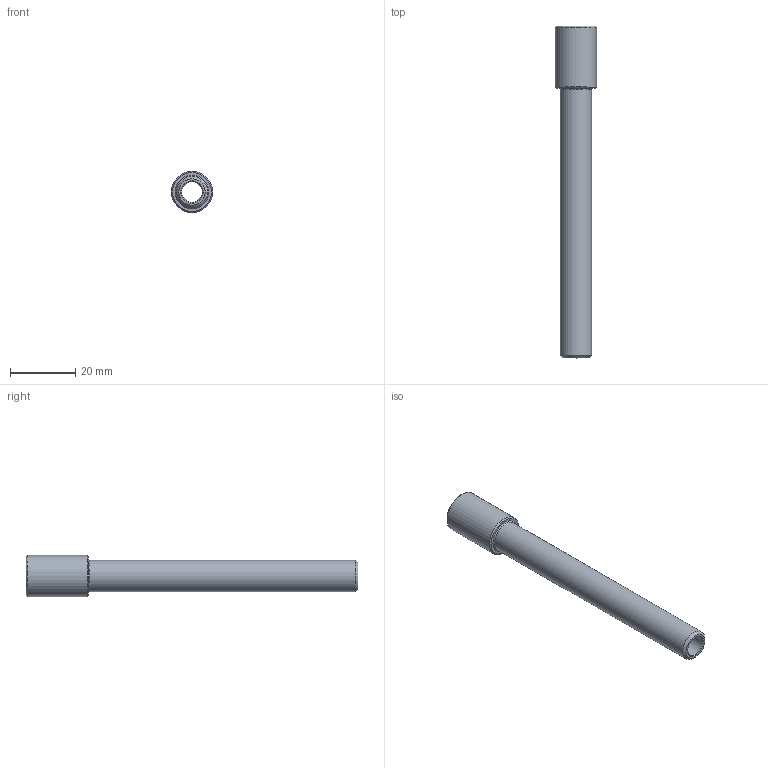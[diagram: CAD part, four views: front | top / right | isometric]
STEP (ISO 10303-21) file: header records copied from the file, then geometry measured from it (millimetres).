
FILE_DESCRIPTION(/* description */ (''),/* implementation_level */ '2;1');
FILE_NAME(/* name */ 'C:/Users/drich/Desktop/EP18X4 v1.step',/* time_stamp */ '2019-11-18T15:03:55-06:00',/* author */ (''),/* organization */ (''),/* preprocessor_version */ 'ST-DEVELOPER v18',/* originating_system */ 'Autodesk Translation Framework v8.12.0.6',/* authorisation */ '');
FILE_SCHEMA (('AUTOMOTIVE_DESIGN { 1 0 10303 214 3 1 1 }'));
Length unit declared in the file: inch
Products named in the file (2): EP18X4; EP18X4_1
Assembly tree (1 placements, depth 2):
  EP18X4
    EP18X4_1
Bounding box: 12.7 x 101.6 x 12.7 mm (x, y, z)
Volume: 4833.9 mm3; surface area: 5525 mm2
Topology: 1 solids, 1 shells, 23 faces, 55 edges, 37 vertices
Faces by surface type: plane 11, cone 7, cylinder 5
Full cylindrical faces by diameter (mm): 6.35 x1, 7.62 x1, 8.707 x1, 9.621 x1, 12.7 x1
Entity records: 740 total; most frequent: CARTESIAN_POINT 132, DIRECTION 124, ORIENTED_EDGE 110, EDGE_CURVE 55, AXIS2_PLACEMENT_3D 50, VERTEX_POINT 37, EDGE_LOOP 28, LINE 24
